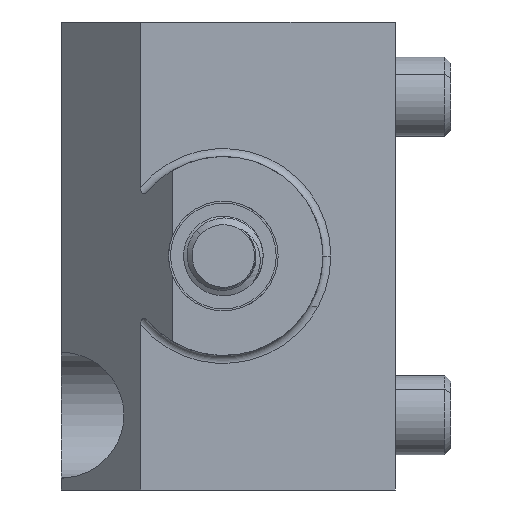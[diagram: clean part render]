
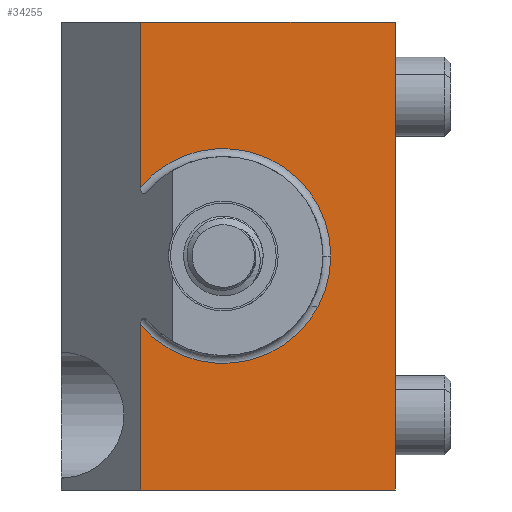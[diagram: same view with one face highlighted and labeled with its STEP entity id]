
A CAD part, left-side view. The second image highlights one B-rep face of the part: STEP entity #34255.
In plain terms, the highlighted planar face has unit normal (-1, 0, 0).
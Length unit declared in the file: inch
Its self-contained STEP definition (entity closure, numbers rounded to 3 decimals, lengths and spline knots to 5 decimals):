
#371 = PLANE ( 'NONE',  #28736 ) ;
#1076 = ORIENTED_EDGE ( 'NONE', *, *, #41137, .T. ) ;
#2477 = CARTESIAN_POINT ( 'NONE',  ( -0.85, 0., 0. ) ) ;
#3723 = CARTESIAN_POINT ( 'NONE',  ( -0.85, 0.26, -0.735 ) ) ;
#4169 = DIRECTION ( 'NONE',  ( 0., 0., 1. ) ) ;
#5145 = VECTOR ( 'NONE', #36799, 39.37008 ) ;
#5439 = LINE ( 'NONE', #21545, #26536 ) ;
#6479 = DIRECTION ( 'NONE',  ( 0., -1., 0. ) ) ;
#6502 = VERTEX_POINT ( 'NONE', #41744 ) ;
#6979 = AXIS2_PLACEMENT_3D ( 'NONE', #2477, #30194, #6479 ) ;
#9241 = DIRECTION ( 'NONE',  ( 1., 0., 0. ) ) ;
#9614 = VERTEX_POINT ( 'NONE', #22283 ) ;
#9743 = CIRCLE ( 'NONE', #44592, 0.3375 ) ;
#12290 = DIRECTION ( 'NONE',  ( 0., -1., 0. ) ) ;
#12998 = CARTESIAN_POINT ( 'NONE',  ( -0.85, 0.26, -0.735 ) ) ;
#14630 = ORIENTED_EDGE ( 'NONE', *, *, #47911, .T. ) ;
#16121 = CARTESIAN_POINT ( 'NONE',  ( -0.85, -0.54, -0.735 ) ) ;
#17371 = CARTESIAN_POINT ( 'NONE',  ( -0.85, 0.26, -0.21519 ) ) ;
#18662 = FACE_OUTER_BOUND ( 'NONE', #31091, .T. ) ;
#19020 = LINE ( 'NONE', #25479, #28315 ) ;
#19465 = VERTEX_POINT ( 'NONE', #19997 ) ;
#19997 = CARTESIAN_POINT ( 'NONE',  ( -0.85, 0.26, 0.735 ) ) ;
#21102 = VERTEX_POINT ( 'NONE', #17371 ) ;
#21545 = CARTESIAN_POINT ( 'NONE',  ( -0.85, 0.51, 0.735 ) ) ;
#22283 = CARTESIAN_POINT ( 'NONE',  ( -0.85, -0.54, -0.735 ) ) ;
#25373 = EDGE_CURVE ( 'NONE', #19465, #35692, #5439, .T. ) ;
#25479 = CARTESIAN_POINT ( 'NONE',  ( -0.85, 0.51, -0.735 ) ) ;
#26536 = VECTOR ( 'NONE', #49354, 39.37008 ) ;
#27134 = CIRCLE ( 'NONE', #6979, 0.3375 ) ;
#27302 = CARTESIAN_POINT ( 'NONE',  ( -0.85, 0.26, -0.735 ) ) ;
#27420 = VECTOR ( 'NONE', #47284, 39.37008 ) ;
#28074 = CARTESIAN_POINT ( 'NONE',  ( -0.85, 0.51, -0.735 ) ) ;
#28315 = VECTOR ( 'NONE', #29423, 39.37008 ) ;
#28736 = AXIS2_PLACEMENT_3D ( 'NONE', #28074, #35429, #12290 ) ;
#29423 = DIRECTION ( 'NONE',  ( 0., -1., 0. ) ) ;
#29424 = VECTOR ( 'NONE', #4169, 39.37008 ) ;
#30194 = DIRECTION ( 'NONE',  ( 1., 0., 0. ) ) ;
#31091 = EDGE_LOOP ( 'NONE', ( #39892, #49320, #1076, #42992, #46703, #48632, #14630 ) ) ;
#31454 = CARTESIAN_POINT ( 'NONE',  ( -0.85, -0.54, 0.735 ) ) ;
#31817 = VERTEX_POINT ( 'NONE', #36113 ) ;
#33005 = CARTESIAN_POINT ( 'NONE',  ( -0.85, 0., 0. ) ) ;
#34255 = ADVANCED_FACE ( 'NONE', ( #18662 ), #371, .T. ) ;
#35429 = DIRECTION ( 'NONE',  ( -1., 0., 0. ) ) ;
#35692 = VERTEX_POINT ( 'NONE', #31454 ) ;
#36113 = CARTESIAN_POINT ( 'NONE',  ( -0.85, -0.3375, 0. ) ) ;
#36799 = DIRECTION ( 'NONE',  ( 0., 0., 1. ) ) ;
#37005 = DIRECTION ( 'NONE',  ( 0., -1., 0. ) ) ;
#39231 = LINE ( 'NONE', #27302, #27420 ) ;
#39279 = EDGE_CURVE ( 'NONE', #6502, #31817, #9743, .T. ) ;
#39846 = EDGE_CURVE ( 'NONE', #40393, #9614, #19020, .T. ) ;
#39892 = ORIENTED_EDGE ( 'NONE', *, *, #42448, .F. ) ;
#40393 = VERTEX_POINT ( 'NONE', #3723 ) ;
#41137 = EDGE_CURVE ( 'NONE', #9614, #35692, #41268, .T. ) ;
#41268 = LINE ( 'NONE', #16121, #29424 ) ;
#41744 = CARTESIAN_POINT ( 'NONE',  ( -0.85, 0.26, 0.21519 ) ) ;
#42448 = EDGE_CURVE ( 'NONE', #40393, #21102, #39231, .T. ) ;
#42992 = ORIENTED_EDGE ( 'NONE', *, *, #25373, .F. ) ;
#44592 = AXIS2_PLACEMENT_3D ( 'NONE', #33005, #9241, #37005 ) ;
#45850 = EDGE_CURVE ( 'NONE', #6502, #19465, #46135, .T. ) ;
#46135 = LINE ( 'NONE', #12998, #5145 ) ;
#46703 = ORIENTED_EDGE ( 'NONE', *, *, #45850, .F. ) ;
#47284 = DIRECTION ( 'NONE',  ( 0., 0., 1. ) ) ;
#47911 = EDGE_CURVE ( 'NONE', #31817, #21102, #27134, .T. ) ;
#48632 = ORIENTED_EDGE ( 'NONE', *, *, #39279, .T. ) ;
#49320 = ORIENTED_EDGE ( 'NONE', *, *, #39846, .T. ) ;
#49354 = DIRECTION ( 'NONE',  ( 0., -1., 0. ) ) ;
